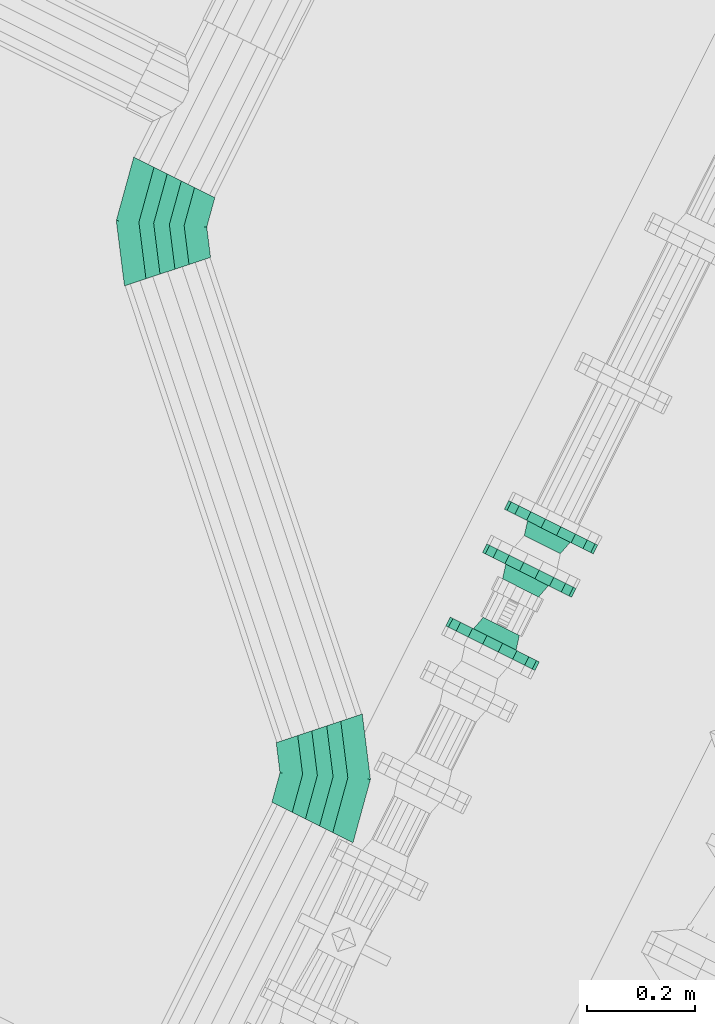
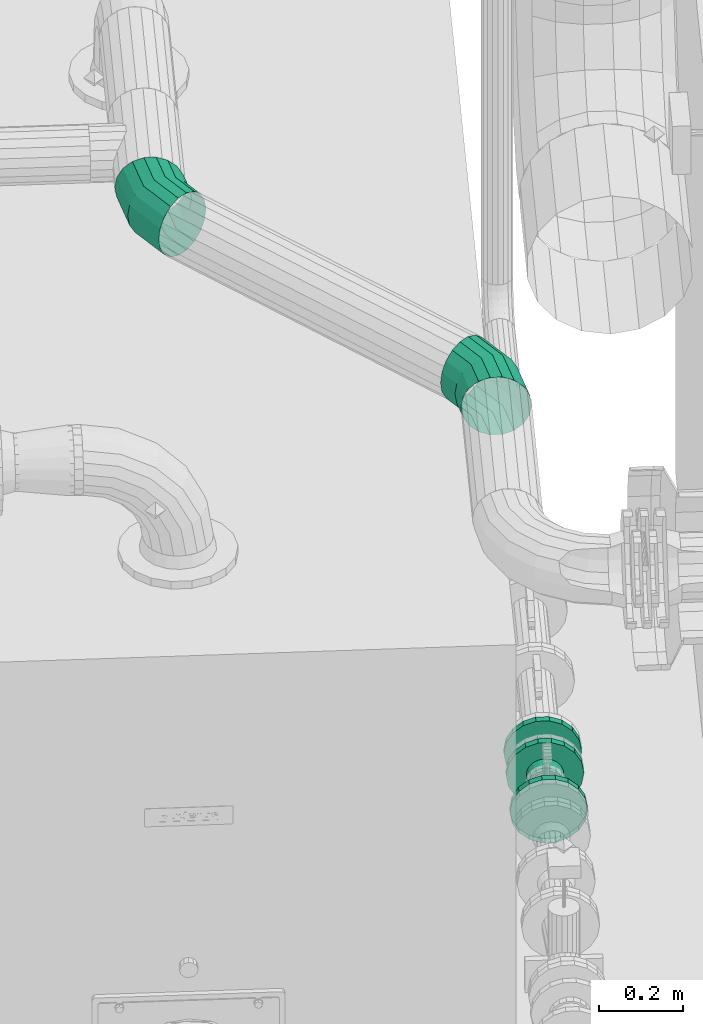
# One storey, part 104 of 206: 3 flow fittings, 2 flow segments.
"""IFC2X3 building model written with IfcOpenShell, lengths in metres."""

import ifcopenshell
import ifcopenshell.guid

model = None  # the IFC model being written
_history = None  # IfcOwnerHistory: only IFC2X3 demands one
_inside = {}  # id of a spatial element -> (the spatial element, [elements in it])
_under = {}  # id of a project, library or spatial element -> (it, [spatial elements below it])
_declared = {}  # id of a project -> (the project, [libraries it declares])
_typed = {}  # id of a type object -> (the type object, [elements of that type])
_made_of = {}  # id of a material, layer set ... -> (it, [elements and type objects made of it])


def new_model(schema):
    """Start an empty IFC model of exactly this schema.

    Asked for "IFC4X3", IfcOpenShell would pick the latest addendum, in which some entities
    have other attributes; the version numbers below select the first issue.
    IFC2X3 requires an IfcOwnerHistory on every rooted entity: one is made here for all.
    """
    global model, _history
    if schema == "IFC4X3":
        model = ifcopenshell.file(schema_version=(4, 3, 0, 0))
    else:
        model = ifcopenshell.file(schema=schema)
    _inside.clear()
    _under.clear()
    _declared.clear()
    _typed.clear()
    _made_of.clear()
    _history = None
    if model.schema == "IFC2X3":
        org = make("IfcOrganization", Name="unknown")
        user = make(
            "IfcPersonAndOrganization",
            ThePerson=make("IfcPerson", FamilyName="unknown"),
            TheOrganization=org,
        )
        app = make(
            "IfcApplication",
            ApplicationDeveloper=org,
            Version="unknown",
            ApplicationFullName="unknown",
            ApplicationIdentifier="unknown",
        )
        _history = make(
            "IfcOwnerHistory",
            OwningUser=user,
            OwningApplication=app,
            ChangeAction="ADDED",
            CreationDate=0,
        )
    return model


def make(cls, **values):
    """One entity of the class cls with the attributes given. An attribute that is None is left unset."""
    return model.create_entity(
        cls, **{name: value for name, value in values.items() if value is not None}
    )


def rooted(cls, **values):
    """An entity with a GlobalId (a new one), such as an element, a storey or a relation."""
    return make(cls, GlobalId=ifcopenshell.guid.new(), OwnerHistory=_history, **values)


def si_unit(unit_type, name, prefix=None):
    """IfcSIUnit, for example si_unit("LENGTHUNIT", "METRE", prefix="MILLI")."""
    return make("IfcSIUnit", UnitType=unit_type, Prefix=prefix, Name=name)


def derived_unit(unit_type, elements):
    """IfcDerivedUnit: a product of units, each with its exponent."""
    return make(
        "IfcDerivedUnit",
        Elements=[
            make("IfcDerivedUnitElement", Unit=unit, Exponent=power)
            for unit, power in elements
        ],
        UnitType=unit_type,
    )


def assignment(units):
    """IfcUnitAssignment: the units of a project."""
    return None if units is None else make("IfcUnitAssignment", Units=units)


def point(xyz):
    """IfcCartesianPoint."""
    return None if xyz is None else make("IfcCartesianPoint", Coordinates=xyz)


def direction(xyz):
    """IfcDirection."""
    return None if xyz is None else make("IfcDirection", DirectionRatios=xyz)


def frame(location, z_axis=None, x_axis=None):
    """IfcAxis2Placement3D, a coordinate frame: its origin and axes. An axis left out is left unset."""
    return make(
        "IfcAxis2Placement3D",
        Location=point(location),
        Axis=direction(z_axis),
        RefDirection=direction(x_axis),
    )


def origin():
    """The frame at (0, 0, 0) with its axes left unset."""
    return frame((0.0, 0.0, 0.0))


def place(relative_to, where):
    """IfcLocalPlacement: puts the frame where relative to a parent placement (None: the world)."""
    return make(
        "IfcLocalPlacement", PlacementRelTo=relative_to, RelativePlacement=where
    )


def context(
    kind, dimensions, precision=None, world=None, true_north=None, identifier=None
):
    """IfcGeometricRepresentationContext, for example the 3D "Model" context."""
    return make(
        "IfcGeometricRepresentationContext",
        ContextIdentifier=identifier,
        ContextType=kind,
        CoordinateSpaceDimension=dimensions,
        Precision=precision,
        WorldCoordinateSystem=world,
        TrueNorth=true_north,
    )


def subcontext(parent, identifier, kind, view, scale=None):
    """IfcGeometricRepresentationSubContext, for example "Body" below "Model"."""
    return make(
        "IfcGeometricRepresentationSubContext",
        ContextIdentifier=identifier,
        ContextType=kind,
        ParentContext=parent,
        TargetScale=scale,
        TargetView=view,
    )


def project(units=None, contexts=None):
    """IfcProject with its units and contexts."""
    return rooted(
        "IfcProject",
        Name="project",
        RepresentationContexts=contexts,
        UnitsInContext=assignment(units),
    )


def spatial(cls, under=None, at=None, **own):
    """A site, building, storey or space (cls), placed at a placement, below another one or the project."""
    s = rooted(cls, ObjectPlacement=at, **own)
    if under is not None:
        _under.setdefault(under.id(), (under, []))[1].append(s)
    return s


def faces_of(points, faces, orient=None, outer=None):
    """IfcFace entities. A face is a list of loops; a loop is a list of indices into points, from 0.

    orient and outer hold one flag for each loop. By default every Orientation is true, the
    first loop of a face is its IfcFaceOuterBound and the others are IfcFaceBound.
    """
    made = []
    for i, loops in enumerate(faces):
        bounds = []
        for j, loop in enumerate(loops):
            is_outer = j == 0 if outer is None else outer[i][j]
            bounds.append(
                make(
                    "IfcFaceOuterBound" if is_outer else "IfcFaceBound",
                    Bound=make("IfcPolyLoop", Polygon=[points[k] for k in loop]),
                    Orientation=True if orient is None else orient[i][j],
                )
            )
        made.append(make("IfcFace", Bounds=bounds))
    return made


def face_set(faces, orient=None, outer=None):
    """The faces of one IfcConnectedFaceSet. surface_model builds it on its shared points."""
    return ("IfcConnectedFaceSet", faces, orient, outer)


def surface_model(cls, points, shells):
    """IfcFaceBasedSurfaceModel or IfcShellBasedSurfaceModel (cls): surfaces that need not close."""
    shared = [point(p) for p in points]
    made = [make(c, CfsFaces=faces_of(shared, fs, o, b)) for c, fs, o, b in shells]
    if cls == "IfcFaceBasedSurfaceModel":
        return make(cls, FbsmFaces=made)
    return make(cls, SbsmBoundary=made)


def shape(context_of_items, identifier, shape_type, items):
    """IfcShapeRepresentation: the items that make up one representation, for example the "Body"."""
    return make(
        "IfcShapeRepresentation",
        ContextOfItems=context_of_items,
        RepresentationIdentifier=identifier,
        RepresentationType=shape_type,
        Items=items,
    )


def source(mapping_origin, context_of_items, identifier, shape_type, items):
    """IfcRepresentationMap: a shape defined once, which mapped items show again and again."""
    return make(
        "IfcRepresentationMap",
        MappingOrigin=mapping_origin,
        MappedRepresentation=shape(context_of_items, identifier, shape_type, items),
    )


def transform(
    local_origin,
    x_axis=None,
    y_axis=None,
    z_axis=None,
    scale=None,
    scale2=None,
    scale3=None,
    uniform=True,
):
    """IfcCartesianTransformationOperator3D, or its non-uniform kind. x_axis, y_axis, z_axis: its Axis1, 2, 3."""
    if uniform:
        return make(
            "IfcCartesianTransformationOperator3D",
            Axis1=direction(x_axis),
            Axis2=direction(y_axis),
            LocalOrigin=point(local_origin),
            Scale=scale,
            Axis3=direction(z_axis),
        )
    return make(
        "IfcCartesianTransformationOperator3DnonUniform",
        Axis1=direction(x_axis),
        Axis2=direction(y_axis),
        LocalOrigin=point(local_origin),
        Scale=scale,
        Axis3=direction(z_axis),
        Scale2=scale2,
        Scale3=scale3,
    )


def mapped(mapping_source, mapping_target):
    """IfcMappedItem: shows the shape of a source again, moved by a transform."""
    return make(
        "IfcMappedItem", MappingSource=mapping_source, MappingTarget=mapping_target
    )


def material(Name=None, Category=None):
    """IfcMaterial."""
    return make("IfcMaterial", Name=Name, Category=Category)


def made_of(thing, what):
    """Note that an element or type object is made of a material, layer set ...; save() writes the relation."""
    if what is not None:
        _made_of.setdefault(what.id(), (what, []))[1].append(thing)
    return thing


def type_object(cls, material=None, **own):
    """A type object (cls), such as IfcWallType, which elements share."""
    return made_of(rooted(cls, **own), material)


def type_shapes(of_type, sources):
    """Give a type object the sources (RepresentationMaps) that its elements show as mapped items."""
    of_type.RepresentationMaps = sources


def element(
    cls,
    number,
    at=None,
    inside=None,
    cuts=None,
    type_object=None,
    material=None,
    context=None,
    identifier="Body",
    shape_type=None,
    held_by="IfcProductDefinitionShape",
    body=None,
    shapes=None,
    **own,
):
    """One element of the class cls, such as IfcWall. Its Tag is "e" and its number.

    at: its placement. inside: the storey or other place that contains it. cuts: it is an
    opening in that element (IfcRelVoidsElement). A single representation is given by context,
    identifier, shape_type and body (its items); several are given by shapes. held_by: the class
    of the entity that holds the representations. save() writes the other relations.
    """
    e = rooted(cls, Tag="e%d" % number, ObjectPlacement=at, **own)
    if body is not None:
        shapes = [shape(context, identifier, shape_type, body)]
    if shapes is not None:
        e.Representation = make(held_by, Representations=shapes)
    if inside is not None:
        _inside.setdefault(inside.id(), (inside, []))[1].append(e)
    if cuts is not None:
        rooted(
            "IfcRelVoidsElement", RelatingBuildingElement=cuts, RelatedOpeningElement=e
        )
    if type_object is not None:
        _typed.setdefault(type_object.id(), (type_object, []))[1].append(e)
    return made_of(e, material)


def aggregate(whole, parts):
    """IfcRelAggregates: a whole, such as a stair, and the parts it consists of."""
    return rooted("IfcRelAggregates", RelatingObject=whole, RelatedObjects=parts)


def save(model, path):
    """Write the relations noted so far, then the file.

    IfcRelAggregates (storeys below a building ...), IfcRelContainedInSpatialStructure (elements
    in a storey), IfcRelDefinesByType, IfcRelAssociatesMaterial and IfcRelDeclares: one each for
    every whole, place, type object, material and project.
    """
    for whole, parts in _under.values():
        aggregate(whole, parts)
    for where, things in _inside.values():
        rooted(
            "IfcRelContainedInSpatialStructure",
            RelatedElements=things,
            RelatingStructure=where,
        )
    for kind, things in _typed.values():
        rooted("IfcRelDefinesByType", RelatedObjects=things, RelatingType=kind)
    for what, things in _made_of.values():
        rooted("IfcRelAssociatesMaterial", RelatedObjects=things, RelatingMaterial=what)
    for by, libraries in _declared.values():
        rooted("IfcRelDeclares", RelatingContext=by, RelatedDefinitions=libraries)
    model.write(path)


model = new_model("IFC2X3")

# Units and contexts
model_context = context("Model", 3, precision=5.2338327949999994e-05, world=origin(), true_north=direction((0.0, 1.0)))
body_context = subcontext(model_context, "Body", "Model", "MODEL_VIEW")
ifc_project = project(units=[si_unit("LENGTHUNIT", "METRE"), si_unit("AREAUNIT", "SQUARE_METRE"), si_unit("VOLUMEUNIT", "CUBIC_METRE"), si_unit("MASSUNIT", "GRAM", prefix="KILO"), si_unit("PLANEANGLEUNIT", "RADIAN"), derived_unit("THERMALTRANSMITTANCEUNIT", [(si_unit("MASSUNIT", "GRAM", prefix="KILO"), 1), (si_unit("THERMODYNAMICTEMPERATUREUNIT", "KELVIN"), -1), (si_unit("TIMEUNIT", "SECOND"), -3)])], contexts=[model_context])

# Site, building, storey
site_placement = place(None, frame((0.0, 0.0, 0.0), z_axis=(0.0, 0.0, 1.0), x_axis=(0.8939966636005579, -0.4480736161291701, 0.0)))
site = spatial("IfcSite", under=ifc_project, at=site_placement, Name="Default", CompositionType="ELEMENT")
building_placement = place(site_placement, origin())
building = spatial("IfcBuilding", under=site, at=building_placement, CompositionType="ELEMENT")
storey_placement = place(building_placement, origin())
storey = spatial("IfcBuildingStorey", under=building, at=storey_placement, Name="Erdgeschoss", CompositionType="ELEMENT", Elevation=0.0)

# Flow segments
ifc_material_1 = material(Name="IfcSurfaceStyle #9317")
distribution_element_type_1 = type_object("IfcDistributionElementType", Name="Rohrbogen 341243:Rohrbogen 341243", material=ifc_material_1)
shared_shape_1 = source(origin(), body_context, "Body", "SurfaceModel", [
    surface_model("IfcFaceBasedSurfaceModel", [(21.356797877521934, 6.51596109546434, 2.3540000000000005), (21.361872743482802, 6.515961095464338, 2.3252190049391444), (21.38532356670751, 6.398065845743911, 2.3252190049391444), (21.38063500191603, 6.396123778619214, 2.3540000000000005), (21.45210586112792, 6.298119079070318, 2.325219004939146), (21.448517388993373, 6.294530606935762, 2.353999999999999), (21.376485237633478, 6.5159610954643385, 2.299909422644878), (21.398823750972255, 6.403657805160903, 2.2999094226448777), (21.4624384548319, 6.308451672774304, 2.2999094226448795), (21.398872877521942, 6.515961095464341, 2.2811239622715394), (21.419507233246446, 6.412225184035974, 2.281123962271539), (21.4782689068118, 6.324282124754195, 2.2811239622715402), (21.426335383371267, 6.51596109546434, 2.271128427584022), (21.4448792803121, 6.42273463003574, 2.271128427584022), (21.497687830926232, 6.3437010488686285, 2.271128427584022), (21.45556037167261, 6.51596109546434, 2.271128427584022), (21.471879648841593, 6.433918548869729, 2.271128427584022), (21.518353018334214, 6.364366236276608, 2.271128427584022), (21.48302287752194, 6.51596109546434, 2.2811239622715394), (21.497251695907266, 6.444427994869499, 2.281123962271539), (21.537771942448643, 6.383785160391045, 2.2811239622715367), (21.5054105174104, 6.5159610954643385, 2.299909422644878), (21.51793517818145, 6.4529953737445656, 2.2999094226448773), (21.55360239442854, 6.399615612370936, 2.2999094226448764), (21.52002301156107, 6.5159610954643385, 2.3252190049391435), (21.531435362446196, 6.45858733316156, 2.3252190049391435), (21.563934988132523, 6.409948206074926, 2.3252190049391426), (21.52509787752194, 6.5159610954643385, 2.354000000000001), (21.536123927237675, 6.460529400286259, 2.354000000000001), (21.56752346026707, 6.413536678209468, 2.3539999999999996), (21.52002301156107, 6.5159610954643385, 2.382780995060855), (21.531435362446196, 6.45858733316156, 2.382780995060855), (21.563934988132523, 6.409948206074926, 2.3827809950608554), (21.505410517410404, 6.51596109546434, 2.408090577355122), (21.517935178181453, 6.4529953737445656, 2.4080905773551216), (21.55360239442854, 6.399615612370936, 2.40809057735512), (21.48302287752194, 6.51596109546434, 2.426876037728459), (21.497251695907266, 6.444427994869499, 2.4268760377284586), (21.537771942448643, 6.383785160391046, 2.4268760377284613), (21.45556037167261, 6.51596109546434, 2.4368715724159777), (21.471879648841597, 6.433918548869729, 2.4368715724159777), (21.518353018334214, 6.3643662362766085, 2.4368715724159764), (21.426335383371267, 6.5159610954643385, 2.436871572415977), (21.4448792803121, 6.422734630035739, 2.436871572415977), (21.497687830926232, 6.3437010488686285, 2.436871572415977), (21.398872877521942, 6.51596109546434, 2.4268760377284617), (21.41950723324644, 6.412225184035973, 2.4268760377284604), (21.478268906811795, 6.324282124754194, 2.426876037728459), (21.37648523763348, 6.5159610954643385, 2.408090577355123), (21.398823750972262, 6.403657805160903, 2.4080905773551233), (21.46243845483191, 6.308451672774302, 2.408090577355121), (21.361872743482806, 6.51596109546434, 2.382780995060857), (21.38532356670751, 6.398065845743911, 2.382780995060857), (21.452105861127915, 6.298119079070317, 2.382780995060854)], [face_set([[[0, 1, 2, 3]], [[3, 2, 4, 5]], [[1, 6, 7, 2]], [[2, 7, 8, 4]], [[6, 9, 10, 7]], [[7, 10, 11, 8]], [[9, 12, 13, 10]], [[10, 13, 14, 11]], [[12, 15, 16, 13]], [[13, 16, 17, 14]], [[15, 18, 19, 16]], [[16, 19, 20, 17]], [[18, 21, 22, 19]], [[19, 22, 23, 20]], [[21, 24, 25, 22]], [[22, 25, 26, 23]], [[24, 27, 28, 25]], [[25, 28, 29, 26]], [[27, 30, 31, 28]], [[28, 31, 32, 29]], [[30, 33, 34, 31]], [[31, 34, 35, 32]], [[33, 36, 37, 34]], [[34, 37, 38, 35]], [[36, 39, 40, 37]], [[37, 40, 41, 38]], [[39, 42, 43, 40]], [[40, 43, 44, 41]], [[42, 45, 46, 43]], [[43, 46, 47, 44]], [[45, 48, 49, 46]], [[46, 49, 50, 47]], [[48, 51, 52, 49]], [[49, 52, 53, 50]], [[51, 0, 3, 52]], [[52, 3, 5, 53]]])]),
])
type_shapes(distribution_element_type_1, [shared_shape_1])
flow_segment_1_placement = place(storey_placement, origin())
element("IfcFlowSegment", 1, at=flow_segment_1_placement, inside=storey, type_object=distribution_element_type_1, material=ifc_material_1, Name="Rohrbogen", ObjectType="Rohrbogen", context=body_context, shape_type="MappedRepresentation", body=[
    mapped(shared_shape_1, transform((0.0, 0.0, 0.0), scale=1.0)),
])
distribution_element_type_2 = type_object("IfcDistributionElementType", Name="Rohrbogen 341558:Rohrbogen 341558", material=ifc_material_1)
shared_shape_2 = source(origin(), body_context, "Body", "SurfaceModel", [
    surface_model("IfcFaceBasedSurfaceModel", [(22.29067487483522, 5.560674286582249, 2.354), (22.28560000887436, 5.560674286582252, 2.3252190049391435), (22.262149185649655, 5.678569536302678, 2.3252190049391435), (22.266837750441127, 5.680511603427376, 2.354000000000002), (22.195366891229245, 5.778516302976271, 2.3252190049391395), (22.198955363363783, 5.782104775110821, 2.3539999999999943), (22.27098751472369, 5.560674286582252, 2.299909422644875), (22.2486490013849, 5.672977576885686, 2.299909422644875), (22.18503429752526, 5.768183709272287, 2.2999094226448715), (22.24859987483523, 5.560674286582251, 2.281123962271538), (22.227965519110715, 5.664410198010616, 2.281123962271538), (22.169203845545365, 5.752353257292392, 2.2811239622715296), (22.221137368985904, 5.560674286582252, 2.271128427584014), (22.202593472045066, 5.65390075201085, 2.271128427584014), (22.149784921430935, 5.732934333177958, 2.271128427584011), (22.191912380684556, 5.560674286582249, 2.2711284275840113), (22.17559310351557, 5.642716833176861, 2.2711284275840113), (22.12911973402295, 5.712269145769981, 2.271128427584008), (22.164449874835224, 5.560674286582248, 2.2811239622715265), (22.150221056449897, 5.632207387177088, 2.2811239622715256), (22.10970080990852, 5.692850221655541, 2.281123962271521), (22.142062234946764, 5.560674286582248, 2.299909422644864), (22.12953757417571, 5.62364000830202, 2.2999094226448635), (22.09387035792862, 5.677019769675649, 2.2999094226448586), (22.1274497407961, 5.560674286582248, 2.325219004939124), (22.116037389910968, 5.618048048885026, 2.3252190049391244), (22.083537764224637, 5.66668717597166, 2.325219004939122), (22.12237487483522, 5.5606742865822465, 2.3539999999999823), (22.11134882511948, 5.6161059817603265, 2.3539999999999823), (22.079949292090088, 5.6630987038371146, 2.3539999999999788), (22.127449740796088, 5.5606742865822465, 2.3827809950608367), (22.116037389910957, 5.618048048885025, 2.3827809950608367), (22.083537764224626, 5.666687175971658, 2.3827809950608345), (22.142062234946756, 5.560674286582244, 2.408090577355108), (22.1295375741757, 5.623640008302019, 2.4080905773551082), (22.093870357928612, 5.677019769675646, 2.408090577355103), (22.164449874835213, 5.560674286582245, 2.426876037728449), (22.150221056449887, 5.632207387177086, 2.4268760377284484), (22.109700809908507, 5.692850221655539, 2.426876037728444), (22.19191238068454, 5.560674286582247, 2.436871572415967), (22.175593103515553, 5.642716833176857, 2.436871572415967), (22.129119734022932, 5.712269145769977, 2.4368715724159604), (22.221137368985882, 5.560674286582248, 2.4368715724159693), (22.202593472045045, 5.653900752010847, 2.4368715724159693), (22.149784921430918, 5.732934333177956, 2.4368715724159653), (22.248599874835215, 5.560674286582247, 2.4268760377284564), (22.22796551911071, 5.6644101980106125, 2.426876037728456), (22.169203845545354, 5.752353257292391, 2.426876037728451), (22.27098751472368, 5.560674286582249, 2.408090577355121), (22.248649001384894, 5.672977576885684, 2.4080905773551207), (22.185034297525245, 5.768183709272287, 2.4080905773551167), (22.28560000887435, 5.560674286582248, 2.3827809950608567), (22.262149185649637, 5.6785695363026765, 2.3827809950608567), (22.19536689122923, 5.778516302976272, 2.382780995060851)], [face_set([[[0, 1, 2, 3]], [[3, 2, 4, 5]], [[1, 6, 7, 2]], [[2, 7, 8, 4]], [[6, 9, 10, 7]], [[7, 10, 11, 8]], [[9, 12, 13, 10]], [[10, 13, 14, 11]], [[12, 15, 16, 13]], [[13, 16, 17, 14]], [[15, 18, 19, 16]], [[16, 19, 20, 17]], [[18, 21, 22, 19]], [[19, 22, 23, 20]], [[21, 24, 25, 22]], [[22, 25, 26, 23]], [[24, 27, 28, 25]], [[25, 28, 29, 26]], [[27, 30, 31, 28]], [[28, 31, 32, 29]], [[30, 33, 34, 31]], [[31, 34, 35, 32]], [[33, 36, 37, 34]], [[34, 37, 38, 35]], [[36, 39, 40, 37]], [[37, 40, 41, 38]], [[39, 42, 43, 40]], [[40, 43, 44, 41]], [[42, 45, 46, 43]], [[43, 46, 47, 44]], [[45, 48, 49, 46]], [[46, 49, 50, 47]], [[48, 51, 52, 49]], [[49, 52, 53, 50]], [[51, 0, 3, 52]], [[52, 3, 5, 53]]])]),
])
type_shapes(distribution_element_type_2, [shared_shape_2])
flow_segment_2_placement = place(storey_placement, origin())
element("IfcFlowSegment", 2, at=flow_segment_2_placement, inside=storey, type_object=distribution_element_type_2, material=ifc_material_1, Name="Rohrbogen", ObjectType="Rohrbogen", context=body_context, shape_type="MappedRepresentation", body=[
    mapped(shared_shape_2, transform((0.0, 0.0, 0.0), scale=1.0)),
])

# Flow fittings
ifc_material_2 = material(Name="IfcSurfaceStyle #352577")
distribution_element_type_3 = type_object("IfcDistributionElementType", Name="Flansch 353114:Flansch 353114", material=ifc_material_2)
shared_shape_3 = source(origin(), body_context, "Body", "SurfaceModel", [
    surface_model("IfcFaceBasedSurfaceModel", [(22.264266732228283, 6.167958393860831, 0.869999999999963), (22.269845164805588, 6.167958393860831, 0.8383631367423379), (22.269845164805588, 6.14995839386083, 0.8383631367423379), (22.264266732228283, 6.14995839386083, 0.869999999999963), (22.285907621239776, 6.167958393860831, 0.8105421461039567), (22.285907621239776, 6.14995839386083, 0.8105421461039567), (22.310516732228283, 6.167958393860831, 0.7898926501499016), (22.310516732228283, 6.14995839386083, 0.7898926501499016), (22.340704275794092, 6.167958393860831, 0.778905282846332), (22.340704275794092, 6.14995839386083, 0.778905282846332), (22.372829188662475, 6.167958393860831, 0.7789052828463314), (22.372829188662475, 6.14995839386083, 0.7789052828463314), (22.40301673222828, 6.167958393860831, 0.7898926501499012), (22.40301673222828, 6.14995839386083, 0.7898926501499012), (22.427625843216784, 6.167958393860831, 0.8105421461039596), (22.427625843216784, 6.14995839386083, 0.8105421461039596), (22.44368829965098, 6.167958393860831, 0.8383631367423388), (22.44368829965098, 6.14995839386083, 0.8383631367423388), (22.449266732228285, 6.167958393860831, 0.8699999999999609), (22.449266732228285, 6.14995839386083, 0.8699999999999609), (22.44368829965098, 6.167958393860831, 0.9016368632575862), (22.44368829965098, 6.14995839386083, 0.9016368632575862), (22.427625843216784, 6.167958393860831, 0.9294578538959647), (22.427625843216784, 6.14995839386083, 0.9294578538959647), (22.403016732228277, 6.167958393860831, 0.9501073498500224), (22.403016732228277, 6.14995839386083, 0.9501073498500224), (22.372829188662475, 6.167958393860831, 0.9610947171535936), (22.372829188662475, 6.14995839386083, 0.9610947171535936), (22.340704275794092, 6.167958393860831, 0.9610947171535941), (22.340704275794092, 6.14995839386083, 0.9610947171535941), (22.310516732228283, 6.167958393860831, 0.9501073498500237), (22.310516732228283, 6.14995839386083, 0.9501073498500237), (22.285907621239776, 6.167958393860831, 0.9294578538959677), (22.285907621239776, 6.14995839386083, 0.9294578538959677), (22.269845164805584, 6.167958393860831, 0.9016368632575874), (22.269845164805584, 6.14995839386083, 0.9016368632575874), (22.356766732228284, 6.149958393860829, 0.8699999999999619), (22.356766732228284, 6.14995839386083, 0.8249999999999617), (22.37215763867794, 6.14995839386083, 0.8277138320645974), (22.369780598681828, 6.12295839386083, 0.8342446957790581), (22.356766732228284, 6.12295839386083, 0.8319499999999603), (22.38569217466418, 6.149958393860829, 0.8355280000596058), (22.381224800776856, 6.122958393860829, 0.8408520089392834), (22.395737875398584, 6.14995839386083, 0.8474999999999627), (22.38971899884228, 6.12295839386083, 0.8509749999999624), (22.40108308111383, 6.14995839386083, 0.8621858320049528), (22.3942386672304, 6.12295839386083, 0.863392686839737), (22.40108308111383, 6.14995839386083, 0.8778141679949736), (22.394238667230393, 6.12295839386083, 0.8766073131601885), (22.39573787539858, 6.149958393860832, 0.8924999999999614), (22.38971899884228, 6.122958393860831, 0.889024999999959), (22.38569217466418, 6.14995839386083, 0.9044719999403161), (22.38122480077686, 6.12295839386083, 0.8991479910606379), (22.372157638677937, 6.14995839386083, 0.9122861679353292), (22.369780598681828, 6.12295839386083, 0.9057553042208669), (22.356766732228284, 6.14995839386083, 0.91499999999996), (22.356766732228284, 6.12295839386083, 0.9080499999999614), (22.341375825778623, 6.14995839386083, 0.9122861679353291), (22.343752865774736, 6.12295839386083, 0.9057553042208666), (22.327841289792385, 6.14995839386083, 0.9044719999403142), (22.33230866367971, 6.12295839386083, 0.899147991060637), (22.317795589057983, 6.14995839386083, 0.8924999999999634), (22.323814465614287, 6.12295839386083, 0.8890249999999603), (22.312450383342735, 6.14995839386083, 0.8778141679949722), (22.31929479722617, 6.12295839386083, 0.8766073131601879), (22.31245038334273, 6.14995839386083, 0.8621858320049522), (22.319294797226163, 6.12295839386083, 0.8633926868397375), (22.317795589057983, 6.14995839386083, 0.8474999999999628), (22.323814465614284, 6.12295839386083, 0.8509749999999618), (22.327841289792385, 6.14995839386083, 0.8355280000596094), (22.33230866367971, 6.12295839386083, 0.8408520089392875), (22.341375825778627, 6.14995839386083, 0.8277138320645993), (22.34375286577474, 6.12295839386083, 0.83424469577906)], [face_set([[[0, 1, 2, 3]], [[1, 4, 5, 2]], [[4, 6, 7, 5]], [[6, 8, 9, 7]], [[8, 10, 11, 9]], [[10, 12, 13, 11]], [[12, 14, 15, 13]], [[14, 16, 17, 15]], [[16, 18, 19, 17]], [[18, 20, 21, 19]], [[20, 22, 23, 21]], [[22, 24, 25, 23]], [[24, 26, 27, 25]], [[26, 28, 29, 27]], [[28, 30, 31, 29]], [[30, 32, 33, 31]], [[32, 34, 35, 33]], [[34, 0, 3, 35]], [[36, 35, 3]], [[36, 33, 35]], [[36, 31, 33]], [[36, 29, 31]], [[36, 27, 29]], [[36, 25, 27]], [[36, 23, 25]], [[36, 21, 23]], [[36, 19, 21]], [[36, 17, 19]], [[36, 15, 17]], [[36, 13, 15]], [[36, 11, 13]], [[36, 9, 11]], [[36, 7, 9]], [[36, 5, 7]], [[36, 2, 5]], [[36, 3, 2]], [[37, 38, 39, 40]], [[38, 41, 42, 39]], [[41, 43, 44, 42]], [[43, 45, 46, 44]], [[45, 47, 48, 46]], [[47, 49, 50, 48]], [[49, 51, 52, 50]], [[51, 53, 54, 52]], [[53, 55, 56, 54]], [[55, 57, 58, 56]], [[57, 59, 60, 58]], [[59, 61, 62, 60]], [[61, 63, 64, 62]], [[63, 65, 66, 64]], [[65, 67, 68, 66]], [[67, 69, 70, 68]], [[69, 71, 72, 70]], [[71, 37, 40, 72]]])]),
])
type_shapes(distribution_element_type_3, [shared_shape_3])
flow_fitting_1_placement = place(storey_placement, origin())
element("IfcFlowFitting", 3, at=flow_fitting_1_placement, inside=storey, type_object=distribution_element_type_3, material=ifc_material_2, Name="Flansch", ObjectType="Flansch", context=body_context, shape_type="MappedRepresentation", body=[
    mapped(shared_shape_3, transform((0.0, 0.0, 0.0), scale=1.0)),
])
distribution_element_type_4 = type_object("IfcDistributionElementType", Name="Flansch 353144:Flansch 353144", material=ifc_material_2)
shared_shape_4 = source(origin(), body_context, "Body", "SurfaceModel", [
    surface_model("IfcFaceBasedSurfaceModel", [(22.264266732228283, 5.99795839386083, 0.869999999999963), (22.269845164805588, 5.99795839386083, 0.9016368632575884), (22.269845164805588, 6.0159583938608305, 0.9016368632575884), (22.264266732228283, 6.0159583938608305, 0.869999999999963), (22.285907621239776, 5.99795839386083, 0.9294578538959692), (22.285907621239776, 6.0159583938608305, 0.9294578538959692), (22.310516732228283, 5.99795839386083, 0.950107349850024), (22.310516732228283, 6.0159583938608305, 0.950107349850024), (22.340704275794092, 5.99795839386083, 0.9610947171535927), (22.340704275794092, 6.0159583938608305, 0.9610947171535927), (22.372829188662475, 5.99795839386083, 0.9610947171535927), (22.372829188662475, 6.0159583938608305, 0.9610947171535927), (22.40301673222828, 5.99795839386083, 0.9501073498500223), (22.40301673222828, 6.0159583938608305, 0.9501073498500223), (22.427625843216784, 5.99795839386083, 0.9294578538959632), (22.427625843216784, 6.0159583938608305, 0.9294578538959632), (22.44368829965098, 5.99795839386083, 0.9016368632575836), (22.44368829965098, 6.0159583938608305, 0.9016368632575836), (22.449266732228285, 5.99795839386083, 0.8699999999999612), (22.449266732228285, 6.0159583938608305, 0.8699999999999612), (22.44368829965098, 5.99795839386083, 0.838363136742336), (22.44368829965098, 6.0159583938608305, 0.838363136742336), (22.427625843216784, 5.99795839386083, 0.8105421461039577), (22.427625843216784, 6.0159583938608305, 0.8105421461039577), (22.403016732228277, 5.99795839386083, 0.7898926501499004), (22.403016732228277, 6.0159583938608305, 0.7898926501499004), (22.37282918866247, 5.99795839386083, 0.778905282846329), (22.37282918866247, 6.0159583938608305, 0.778905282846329), (22.340704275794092, 5.99795839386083, 0.7789052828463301), (22.340704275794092, 6.0159583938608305, 0.7789052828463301), (22.310516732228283, 5.99795839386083, 0.7898926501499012), (22.310516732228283, 6.0159583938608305, 0.7898926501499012), (22.285907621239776, 5.99795839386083, 0.8105421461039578), (22.285907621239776, 6.0159583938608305, 0.8105421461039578), (22.269845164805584, 5.99795839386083, 0.8383631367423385), (22.269845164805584, 6.0159583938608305, 0.8383631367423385), (22.35676673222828, 6.01595839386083, 0.8699999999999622), (22.356766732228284, 6.0159583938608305, 0.9149999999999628), (22.37215763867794, 6.0159583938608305, 0.9122861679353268), (22.369780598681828, 6.04295839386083, 0.9057553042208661), (22.356766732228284, 6.04295839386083, 0.9080499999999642), (22.38569217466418, 6.015958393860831, 0.9044719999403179), (22.381224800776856, 6.042958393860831, 0.8991479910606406), (22.395737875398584, 6.0159583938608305, 0.892499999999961), (22.38971899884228, 6.04295839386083, 0.8890249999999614), (22.40108308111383, 6.0159583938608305, 0.8778141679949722), (22.394238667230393, 6.04295839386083, 0.8766073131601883), (22.40108308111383, 6.0159583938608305, 0.8621858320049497), (22.394238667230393, 6.04295839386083, 0.8633926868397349), (22.39573787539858, 6.0159583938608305, 0.8474999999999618), (22.38971899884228, 6.04295839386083, 0.8509749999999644), (22.38569217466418, 6.0159583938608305, 0.835528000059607), (22.38122480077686, 6.04295839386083, 0.8408520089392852), (22.372157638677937, 6.0159583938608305, 0.8277138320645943), (22.36978059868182, 6.04295839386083, 0.8342446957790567), (22.356766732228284, 6.0159583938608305, 0.8249999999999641), (22.356766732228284, 6.04295839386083, 0.8319499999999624), (22.341375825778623, 6.0159583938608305, 0.8277138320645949), (22.343752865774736, 6.04295839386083, 0.8342446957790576), (22.327841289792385, 6.0159583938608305, 0.8355280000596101), (22.33230866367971, 6.04295839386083, 0.8408520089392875), (22.317795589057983, 6.0159583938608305, 0.8474999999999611), (22.323814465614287, 6.04295839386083, 0.8509749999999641), (22.31245038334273, 6.0159583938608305, 0.8621858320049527), (22.31929479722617, 6.04295839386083, 0.8633926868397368), (22.31245038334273, 6.0159583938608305, 0.877814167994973), (22.319294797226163, 6.04295839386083, 0.8766073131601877), (22.317795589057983, 6.0159583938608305, 0.8924999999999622), (22.323814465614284, 6.04295839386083, 0.8890249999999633), (22.327841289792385, 6.0159583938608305, 0.9044719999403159), (22.33230866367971, 6.04295839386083, 0.8991479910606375), (22.341375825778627, 6.0159583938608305, 0.9122861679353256), (22.34375286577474, 6.04295839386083, 0.9057553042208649)], [face_set([[[0, 1, 2, 3]], [[1, 4, 5, 2]], [[4, 6, 7, 5]], [[6, 8, 9, 7]], [[8, 10, 11, 9]], [[10, 12, 13, 11]], [[12, 14, 15, 13]], [[14, 16, 17, 15]], [[16, 18, 19, 17]], [[18, 20, 21, 19]], [[20, 22, 23, 21]], [[22, 24, 25, 23]], [[24, 26, 27, 25]], [[26, 28, 29, 27]], [[28, 30, 31, 29]], [[30, 32, 33, 31]], [[32, 34, 35, 33]], [[34, 0, 3, 35]], [[36, 35, 3]], [[36, 33, 35]], [[36, 31, 33]], [[36, 29, 31]], [[36, 27, 29]], [[36, 25, 27]], [[36, 23, 25]], [[36, 21, 23]], [[36, 19, 21]], [[36, 17, 19]], [[36, 15, 17]], [[36, 13, 15]], [[36, 11, 13]], [[36, 9, 11]], [[36, 7, 9]], [[36, 5, 7]], [[36, 2, 5]], [[36, 3, 2]], [[37, 38, 39, 40]], [[38, 41, 42, 39]], [[41, 43, 44, 42]], [[43, 45, 46, 44]], [[45, 47, 48, 46]], [[47, 49, 50, 48]], [[49, 51, 52, 50]], [[51, 53, 54, 52]], [[53, 55, 56, 54]], [[55, 57, 58, 56]], [[57, 59, 60, 58]], [[59, 61, 62, 60]], [[61, 63, 64, 62]], [[63, 65, 66, 64]], [[65, 67, 68, 66]], [[67, 69, 70, 68]], [[69, 71, 72, 70]], [[71, 37, 40, 72]]])]),
])
type_shapes(distribution_element_type_4, [shared_shape_4])
flow_fitting_2_placement = place(storey_placement, origin())
element("IfcFlowFitting", 4, at=flow_fitting_2_placement, inside=storey, type_object=distribution_element_type_4, material=ifc_material_2, Name="Flansch", ObjectType="Flansch", context=body_context, shape_type="MappedRepresentation", body=[
    mapped(shared_shape_4, transform((0.0, 0.0, 0.0), scale=1.0)),
])
distribution_element_type_5 = type_object("IfcDistributionElementType", Name="Flansch 353196:Flansch 353196", material=ifc_material_2)
shared_shape_5 = source(origin(), body_context, "Body", "SurfaceModel", [
    surface_model("IfcFaceBasedSurfaceModel", [(22.264266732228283, 6.25795839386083, 0.869999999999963), (22.269845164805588, 6.25795839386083, 0.8383631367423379), (22.269845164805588, 6.239958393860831, 0.8383631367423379), (22.264266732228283, 6.239958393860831, 0.869999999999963), (22.285907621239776, 6.25795839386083, 0.8105421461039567), (22.285907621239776, 6.239958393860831, 0.8105421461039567), (22.310516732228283, 6.25795839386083, 0.7898926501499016), (22.310516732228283, 6.239958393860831, 0.7898926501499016), (22.340704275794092, 6.25795839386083, 0.778905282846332), (22.340704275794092, 6.239958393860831, 0.778905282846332), (22.372829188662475, 6.25795839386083, 0.7789052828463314), (22.372829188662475, 6.239958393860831, 0.7789052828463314), (22.40301673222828, 6.25795839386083, 0.7898926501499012), (22.40301673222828, 6.239958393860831, 0.7898926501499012), (22.427625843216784, 6.25795839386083, 0.8105421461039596), (22.427625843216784, 6.239958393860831, 0.8105421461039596), (22.44368829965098, 6.25795839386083, 0.8383631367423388), (22.44368829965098, 6.239958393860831, 0.8383631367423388), (22.449266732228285, 6.25795839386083, 0.8699999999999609), (22.449266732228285, 6.239958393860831, 0.8699999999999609), (22.44368829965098, 6.25795839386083, 0.9016368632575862), (22.44368829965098, 6.239958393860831, 0.9016368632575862), (22.427625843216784, 6.25795839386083, 0.9294578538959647), (22.427625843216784, 6.239958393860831, 0.9294578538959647), (22.403016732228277, 6.25795839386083, 0.9501073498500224), (22.403016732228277, 6.239958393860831, 0.9501073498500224), (22.372829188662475, 6.25795839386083, 0.9610947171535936), (22.372829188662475, 6.239958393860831, 0.9610947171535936), (22.340704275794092, 6.25795839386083, 0.9610947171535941), (22.340704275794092, 6.239958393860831, 0.9610947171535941), (22.310516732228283, 6.25795839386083, 0.9501073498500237), (22.310516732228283, 6.239958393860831, 0.9501073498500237), (22.285907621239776, 6.25795839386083, 0.9294578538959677), (22.285907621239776, 6.239958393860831, 0.9294578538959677), (22.269845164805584, 6.25795839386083, 0.9016368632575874), (22.269845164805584, 6.239958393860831, 0.9016368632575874), (22.356766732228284, 6.239958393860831, 0.8699999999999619), (22.356766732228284, 6.239958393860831, 0.8249999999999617), (22.37215763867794, 6.239958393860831, 0.8277138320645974), (22.369780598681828, 6.21295839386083, 0.8342446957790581), (22.356766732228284, 6.21295839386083, 0.8319499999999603), (22.38569217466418, 6.23995839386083, 0.8355280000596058), (22.381224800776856, 6.212958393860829, 0.8408520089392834), (22.395737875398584, 6.239958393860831, 0.8474999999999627), (22.38971899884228, 6.21295839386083, 0.8509749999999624), (22.40108308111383, 6.239958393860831, 0.8621858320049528), (22.3942386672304, 6.21295839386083, 0.863392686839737), (22.40108308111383, 6.239958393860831, 0.8778141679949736), (22.394238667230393, 6.21295839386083, 0.8766073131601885), (22.39573787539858, 6.239958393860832, 0.8924999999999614), (22.38971899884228, 6.2129583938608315, 0.889024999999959), (22.38569217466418, 6.239958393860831, 0.9044719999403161), (22.38122480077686, 6.21295839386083, 0.8991479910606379), (22.372157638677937, 6.239958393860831, 0.9122861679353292), (22.369780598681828, 6.21295839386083, 0.9057553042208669), (22.356766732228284, 6.239958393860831, 0.91499999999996), (22.356766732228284, 6.21295839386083, 0.9080499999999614), (22.341375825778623, 6.239958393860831, 0.9122861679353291), (22.343752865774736, 6.21295839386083, 0.9057553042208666), (22.327841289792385, 6.239958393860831, 0.9044719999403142), (22.33230866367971, 6.21295839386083, 0.899147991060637), (22.317795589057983, 6.239958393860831, 0.8924999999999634), (22.323814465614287, 6.21295839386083, 0.8890249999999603), (22.312450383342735, 6.239958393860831, 0.8778141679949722), (22.31929479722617, 6.21295839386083, 0.8766073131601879), (22.31245038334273, 6.239958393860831, 0.8621858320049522), (22.319294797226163, 6.21295839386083, 0.8633926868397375), (22.317795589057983, 6.239958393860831, 0.8474999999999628), (22.323814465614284, 6.21295839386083, 0.8509749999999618), (22.327841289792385, 6.239958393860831, 0.8355280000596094), (22.33230866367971, 6.21295839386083, 0.8408520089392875), (22.341375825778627, 6.239958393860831, 0.8277138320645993), (22.34375286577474, 6.21295839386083, 0.83424469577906)], [face_set([[[0, 1, 2, 3]], [[1, 4, 5, 2]], [[4, 6, 7, 5]], [[6, 8, 9, 7]], [[8, 10, 11, 9]], [[10, 12, 13, 11]], [[12, 14, 15, 13]], [[14, 16, 17, 15]], [[16, 18, 19, 17]], [[18, 20, 21, 19]], [[20, 22, 23, 21]], [[22, 24, 25, 23]], [[24, 26, 27, 25]], [[26, 28, 29, 27]], [[28, 30, 31, 29]], [[30, 32, 33, 31]], [[32, 34, 35, 33]], [[34, 0, 3, 35]], [[36, 35, 3]], [[36, 33, 35]], [[36, 31, 33]], [[36, 29, 31]], [[36, 27, 29]], [[36, 25, 27]], [[36, 23, 25]], [[36, 21, 23]], [[36, 19, 21]], [[36, 17, 19]], [[36, 15, 17]], [[36, 13, 15]], [[36, 11, 13]], [[36, 9, 11]], [[36, 7, 9]], [[36, 5, 7]], [[36, 2, 5]], [[36, 3, 2]], [[37, 38, 39, 40]], [[38, 41, 42, 39]], [[41, 43, 44, 42]], [[43, 45, 46, 44]], [[45, 47, 48, 46]], [[47, 49, 50, 48]], [[49, 51, 52, 50]], [[51, 53, 54, 52]], [[53, 55, 56, 54]], [[55, 57, 58, 56]], [[57, 59, 60, 58]], [[59, 61, 62, 60]], [[61, 63, 64, 62]], [[63, 65, 66, 64]], [[65, 67, 68, 66]], [[67, 69, 70, 68]], [[69, 71, 72, 70]], [[71, 37, 40, 72]]])]),
])
type_shapes(distribution_element_type_5, [shared_shape_5])
flow_fitting_3_placement = place(storey_placement, origin())
element("IfcFlowFitting", 5, at=flow_fitting_3_placement, inside=storey, type_object=distribution_element_type_5, material=ifc_material_2, Name="Flansch", ObjectType="Flansch", context=body_context, shape_type="MappedRepresentation", body=[
    mapped(shared_shape_5, transform((0.0, 0.0, 0.0), scale=1.0)),
])

save(model, "model.ifc")
